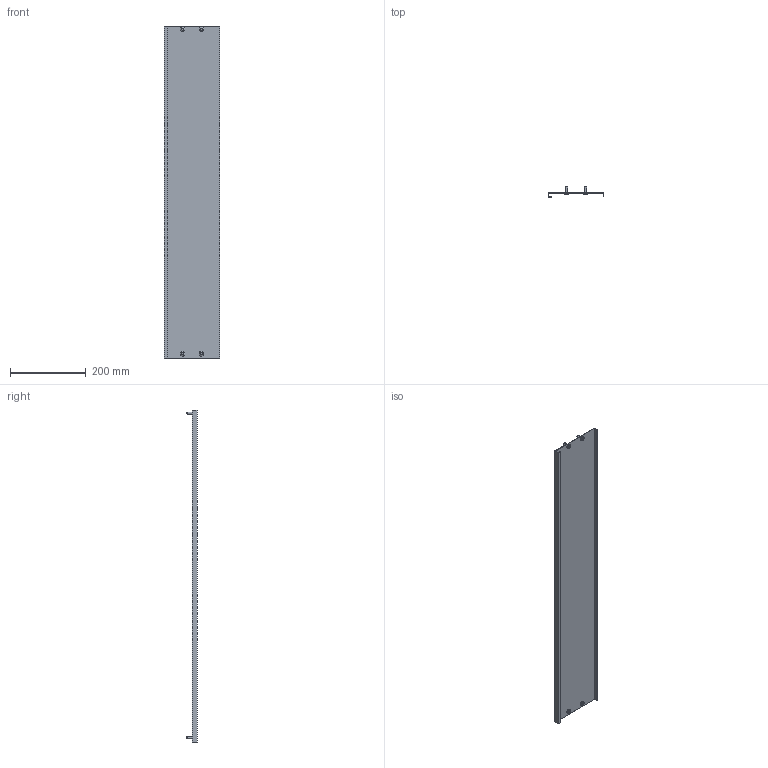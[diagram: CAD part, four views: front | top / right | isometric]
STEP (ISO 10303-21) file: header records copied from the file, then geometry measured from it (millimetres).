
FILE_DESCRIPTION (( 'STEP AP214' ), '1' );
FILE_NAME ('FO-00-PVS-015-100 Ïëàñòðîí ãëóõîé âíóòðåííèé 150õ1000.STEP', '2025-09-30T07:50:34', ( '' ), ( '' ), 'SwSTEP 2.0', 'SolidWorks 2023', '' );
FILE_SCHEMA (( 'AUTOMOTIVE_DESIGN' ));
Length unit declared in the file: millimetre
Products named in the file (3): Винт M6x16 15-100 IEK; FO-00-PVS-015-100 Пластрон глухой внутренний 150х1000
Assembly tree (3 placements, depth 2):
  FO-00-PVS-015-100 Пластрон глухой внутренний 150х1000
    FO-00-PVS-015-100 Пластрон глухой внутренний 150х1000
    Винт M6x16 15-100 IEK  x2
Bounding box: 148 x 27 x 879 mm (x, y, z)
Volume: 232263.5 mm3; surface area: 311433.5 mm2
Topology: 5 solids, 5 shells, 150 faces, 392 edges, 256 vertices
Faces by surface type: cylinder 88, plane 42, cone 12, bspline 8
Entity records: 3233 total; most frequent: CARTESIAN_POINT 724, ORIENTED_EDGE 512, DIRECTION 500, EDGE_CURVE 256, AXIS2_PLACEMENT_3D 180, VERTEX_POINT 168, VECTOR 140, LINE 140
